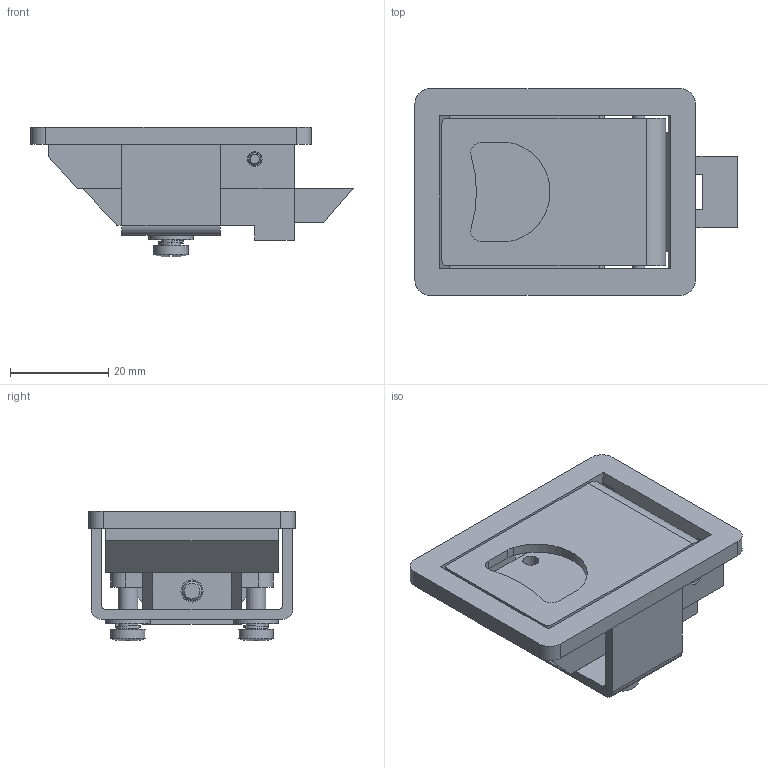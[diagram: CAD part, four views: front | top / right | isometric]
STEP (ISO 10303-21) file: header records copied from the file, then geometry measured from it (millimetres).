
FILE_DESCRIPTION(/* description */ (''),/* implementation_level */ '2;1');
FILE_NAME(/* name */ '\\NAS\db20\LT-103\DR_LT-103.stp',/* time_stamp */ '2017-09-07T09:14:55+09:00',/* author */ ('user'),/* organization */ (''),/* preprocessor_version */ 'ST-DEVELOPER v15.6',/* originating_system */ 'Autodesk Inventor 2015',/* authorisation */ '');
FILE_SCHEMA (('AUTOMOTIVE_DESIGN { 1 0 10303 214 3 1 1 }'));
Length unit declared in the file: millimetre
Products named in the file (1): DR_LT-103
Bounding box: 65.5 x 42 x 26.4 mm (x, y, z)
Volume: 21777.4 mm3; surface area: 20233.8 mm2
Topology: 12 solids, 12 shells, 213 faces, 561 edges, 369 vertices
Faces by surface type: plane 144, cylinder 46, bspline 16, sphere 4, cone 3
Full cylindrical faces by diameter (mm): 2.5 x1, 3 x3, 3.242 x2, 4 x7, 4.5 x3, 5 x2, 7 x2, 9 x2
Entity records: 10103 total; most frequent: CARTESIAN_POINT 4858, ORIENTED_EDGE 1072, DIRECTION 1027, EDGE_CURVE 536, LINE 373, VECTOR 373, VERTEX_POINT 365, AXIS2_PLACEMENT_3D 327
